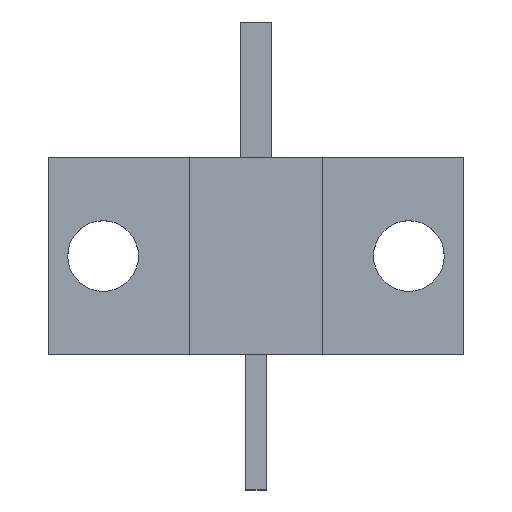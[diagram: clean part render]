
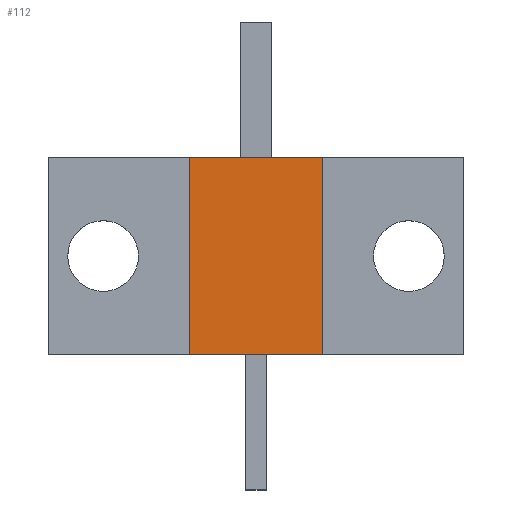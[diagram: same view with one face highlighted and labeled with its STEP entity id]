
A CAD part, top view. The second image highlights one B-rep face of the part: STEP entity #112.
In plain terms, the highlighted planar face has unit normal (0, 0, 1).
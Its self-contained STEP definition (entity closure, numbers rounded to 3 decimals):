
#112=ADVANCED_FACE('',(#300),#302,.T.);
#300=FACE_BOUND('',#301,.T.);
#301=EDGE_LOOP('',(#458,#459,#460,#461));
#302=PLANE('',#303);
#303=AXIS2_PLACEMENT_3D('',#304,#305,#306);
#304=CARTESIAN_POINT('',(0.,0.,3.7));
#305=DIRECTION('',(0.,0.,1.));
#306=DIRECTION('',(-1.,0.,0.));
#458=ORIENTED_EDGE('',*,*,#553,.T.);
#459=ORIENTED_EDGE('',*,*,#554,.T.);
#460=ORIENTED_EDGE('',*,*,#531,.T.);
#461=ORIENTED_EDGE('',*,*,#551,.T.);
#531=EDGE_CURVE('',#585,#583,#586,.T.);
#551=EDGE_CURVE('',#583,#619,#621,.T.);
#553=EDGE_CURVE('',#619,#623,#624,.T.);
#554=EDGE_CURVE('',#623,#585,#625,.T.);
#583=VERTEX_POINT('',#671);
#585=VERTEX_POINT('',#675);
#586=LINE('',#676,#677);
#619=VERTEX_POINT('',#747);
#621=LINE('',#751,#752);
#623=VERTEX_POINT('',#757);
#624=LINE('',#758,#759);
#625=LINE('',#761,#762);
#671=CARTESIAN_POINT('',(-3.2,4.75,3.7));
#675=CARTESIAN_POINT('',(3.2,4.75,3.7));
#676=CARTESIAN_POINT('',(3.2,4.75,3.7));
#677=VECTOR('',#678,1.);
#678=DIRECTION('',(-1.,0.,0.));
#747=CARTESIAN_POINT('',(-3.2,-4.75,3.7));
#751=CARTESIAN_POINT('',(-3.2,4.75,3.7));
#752=VECTOR('',#753,1.);
#753=DIRECTION('',(0.,-1.,0.));
#757=CARTESIAN_POINT('',(3.2,-4.75,3.7));
#758=CARTESIAN_POINT('',(-3.2,-4.75,3.7));
#759=VECTOR('',#760,1.);
#760=DIRECTION('',(1.,0.,0.));
#761=CARTESIAN_POINT('',(3.2,-4.75,3.7));
#762=VECTOR('',#763,1.);
#763=DIRECTION('',(0.,1.,0.));
